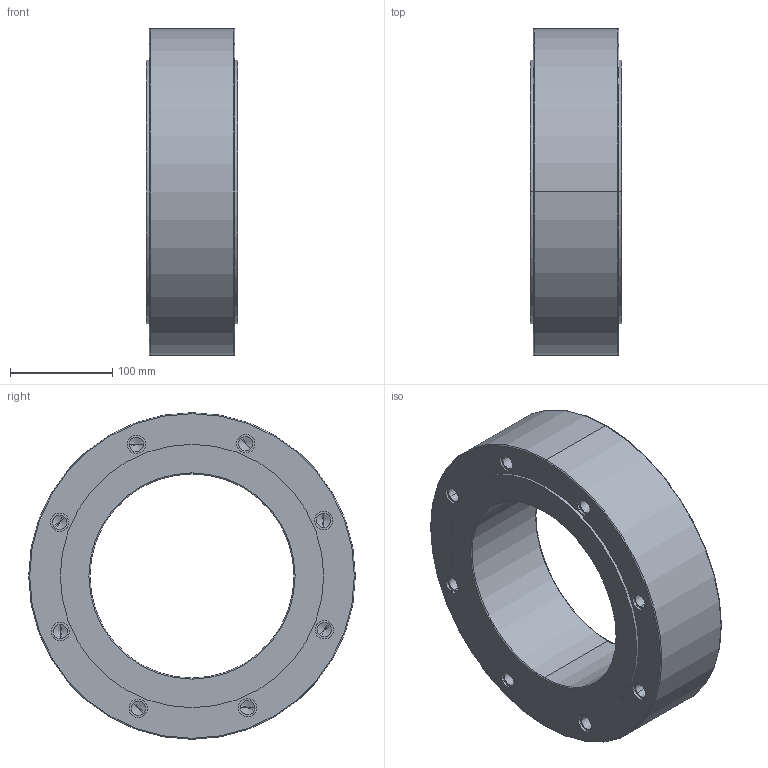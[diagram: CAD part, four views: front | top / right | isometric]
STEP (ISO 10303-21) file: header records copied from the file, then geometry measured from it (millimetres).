
FILE_DESCRIPTION (( 'STEP AP203' ), '1' );
FILE_NAME ('W8_PN06_DN200.STEP', '2012-10-31T07:10:17', ( 'luca.saino' ), ( 'Hewlett-Packard Company' ), 'SwSTEP 2.0', 'SolidWorks 2012', '' );
FILE_SCHEMA (( 'CONFIG_CONTROL_DESIGN' ));
Length unit declared in the file: millimetre
Products named in the file (1): W8_PN06_DN200
Bounding box: 90 x 320 x 320 mm (x, y, z)
Volume: 4183568.6 mm3; surface area: 257989 mm2
Topology: 1 solids, 1 shells, 132 faces, 296 edges, 168 vertices
Faces by surface type: cylinder 72, cone 32, plane 20, torus 8
Entity records: 3557 total; most frequent: DIRECTION 690, CARTESIAN_POINT 565, ORIENTED_EDGE 528, AXIS2_PLACEMENT_3D 293, EDGE_CURVE 264, EDGE_LOOP 168, VERTEX_POINT 168, CIRCLE 160
